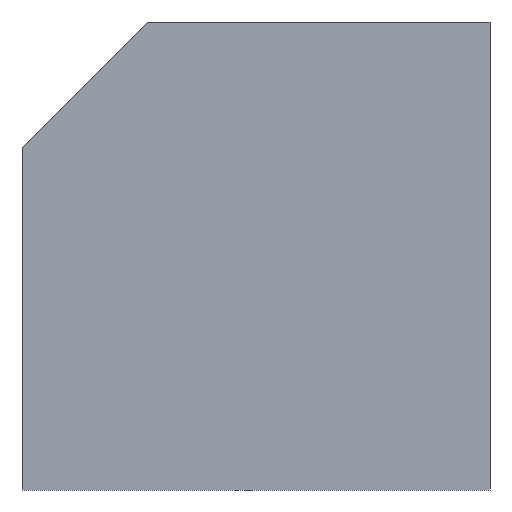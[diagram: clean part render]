
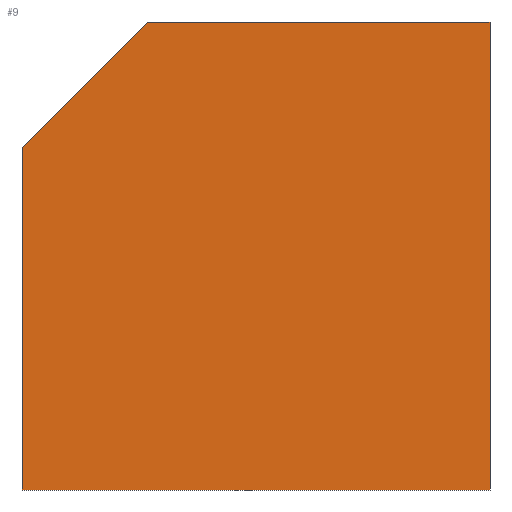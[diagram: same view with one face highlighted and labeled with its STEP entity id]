
A CAD part, front view. The second image highlights one B-rep face of the part: STEP entity #9.
In plain terms, the highlighted planar face has unit normal (0, -1, 0).
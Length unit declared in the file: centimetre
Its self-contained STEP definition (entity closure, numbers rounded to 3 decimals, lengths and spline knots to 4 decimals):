
#9 = ADVANCED_FACE ( 'NONE', ( #23 ), #109, .F. ) ;
#19 = LINE ( 'NONE', #240, #284 ) ;
#22 = CARTESIAN_POINT ( 'NONE',  ( 0., 0., 730.938 ) ) ;
#23 = FACE_OUTER_BOUND ( 'NONE', #179, .T. ) ;
#30 = DIRECTION ( 'NONE',  ( 0., 0., -1. ) ) ;
#31 = EDGE_CURVE ( 'NONE', #171, #250, #115, .T. ) ;
#32 = VERTEX_POINT ( 'NONE', #138 ) ;
#44 = LINE ( 'NONE', #258, #270 ) ;
#46 = CARTESIAN_POINT ( 'NONE',  ( 0., 0., 0. ) ) ;
#53 = EDGE_CURVE ( 'NONE', #95, #76, #44, .T. ) ;
#63 = CARTESIAN_POINT ( 'NONE',  ( 0., 0., 1000. ) ) ;
#64 = CARTESIAN_POINT ( 'NONE',  ( 269.062, 0., 1000. ) ) ;
#68 = EDGE_CURVE ( 'NONE', #76, #171, #296, .T. ) ;
#76 = VERTEX_POINT ( 'NONE', #22 ) ;
#79 = VECTOR ( 'NONE', #30, 100. ) ;
#86 = CARTESIAN_POINT ( 'NONE',  ( 0., 0., 1000. ) ) ;
#91 = CARTESIAN_POINT ( 'NONE',  ( 1000., 0., 1000. ) ) ;
#95 = VERTEX_POINT ( 'NONE', #64 ) ;
#99 = ORIENTED_EDGE ( 'NONE', *, *, #68, .T. ) ;
#109 = PLANE ( 'NONE',  #291 ) ;
#115 = LINE ( 'NONE', #218, #187 ) ;
#124 = VECTOR ( 'NONE', #237, 100. ) ;
#127 = ORIENTED_EDGE ( 'NONE', *, *, #53, .T. ) ;
#132 = ORIENTED_EDGE ( 'NONE', *, *, #277, .F. ) ;
#133 = DIRECTION ( 'NONE',  ( 1., 0., 0. ) ) ;
#138 = CARTESIAN_POINT ( 'NONE',  ( 1000., 0., 1000. ) ) ;
#164 = DIRECTION ( 'NONE',  ( 1., 0., 0. ) ) ;
#171 = VERTEX_POINT ( 'NONE', #46 ) ;
#179 = EDGE_LOOP ( 'NONE', ( #222, #127, #99, #288, #132 ) ) ;
#182 = EDGE_CURVE ( 'NONE', #95, #32, #19, .T. ) ;
#187 = VECTOR ( 'NONE', #164, 100. ) ;
#212 = DIRECTION ( 'NONE',  ( 0., 1., 0. ) ) ;
#218 = CARTESIAN_POINT ( 'NONE',  ( 0., 0., 0. ) ) ;
#222 = ORIENTED_EDGE ( 'NONE', *, *, #182, .F. ) ;
#237 = DIRECTION ( 'NONE',  ( 0., 0., -1. ) ) ;
#240 = CARTESIAN_POINT ( 'NONE',  ( 0., 0., 1000. ) ) ;
#243 = LINE ( 'NONE', #91, #79 ) ;
#248 = CARTESIAN_POINT ( 'NONE',  ( 1000., 0., 0. ) ) ;
#250 = VERTEX_POINT ( 'NONE', #248 ) ;
#258 = CARTESIAN_POINT ( 'NONE',  ( 269.062, 0., 1000. ) ) ;
#270 = VECTOR ( 'NONE', #295, 100. ) ;
#277 = EDGE_CURVE ( 'NONE', #32, #250, #243, .T. ) ;
#284 = VECTOR ( 'NONE', #133, 100. ) ;
#288 = ORIENTED_EDGE ( 'NONE', *, *, #31, .T. ) ;
#291 = AXIS2_PLACEMENT_3D ( 'NONE', #63, #212, #301 ) ;
#295 = DIRECTION ( 'NONE',  ( -0.707, 0., -0.707 ) ) ;
#296 = LINE ( 'NONE', #86, #124 ) ;
#301 = DIRECTION ( 'NONE',  ( 0., 0., 1. ) ) ;
